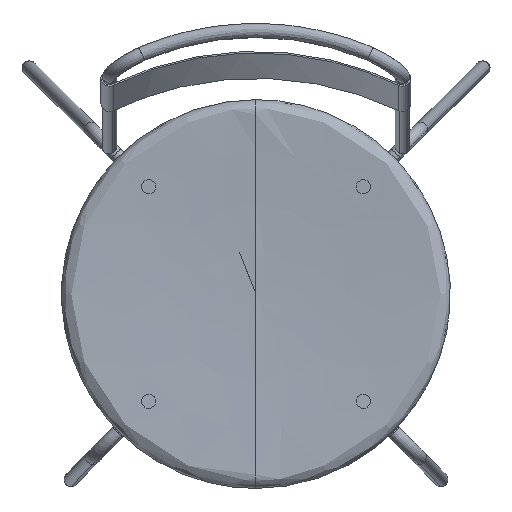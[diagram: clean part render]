
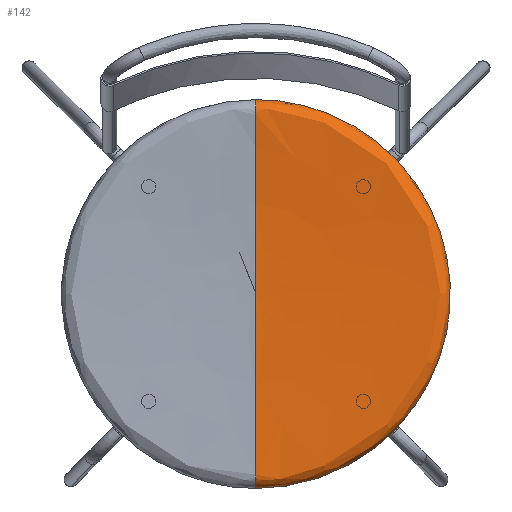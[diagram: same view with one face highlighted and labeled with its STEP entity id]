
A CAD part, top view. The second image highlights one B-rep face of the part: STEP entity #142.
In plain terms, the highlighted free-form (B-spline) face has degree [2, 2] with [5, 7] control points.
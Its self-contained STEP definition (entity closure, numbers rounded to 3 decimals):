
#72=(
BOUNDED_SURFACE()
B_SPLINE_SURFACE(2,2,((#2290,#2291,#2292,#2293,#2294,#2295,#2296),(#2297,
#2298,#2299,#2300,#2301,#2302,#2303),(#2304,#2305,#2306,#2307,#2308,#2309,
#2310),(#2311,#2312,#2313,#2314,#2315,#2316,#2317),(#2318,#2319,#2320,#2321,
#2322,#2323,#2324)),.UNSPECIFIED.,.F.,.F.,.F.)
B_SPLINE_SURFACE_WITH_KNOTS((3,2,3),(3,2,2,3),(0.,383.914,767.827),
(1.1,12.096,23.092,200.175),
 .UNSPECIFIED.)
GEOMETRIC_REPRESENTATION_ITEM()
RATIONAL_B_SPLINE_SURFACE(((1.,0.924,1.,0.924,1.,
0.999,1.),(0.707,0.653,0.707,
0.653,0.707,0.707,0.707),
(1.,0.924,1.,0.924,1.,0.999,1.),(0.707,
0.653,0.707,0.653,0.707,
0.707,0.707),(1.,0.924,1.,0.924,
1.,0.999,1.)))
REPRESENTATION_ITEM('')
SURFACE()
);
#142=ADVANCED_FACE('',(#246),#72,.T.);
#246=FACE_OUTER_BOUND('',#350,.T.);
#350=EDGE_LOOP('',(#524,#525,#526));
#524=ORIENTED_EDGE('',*,*,#916,.T.);
#525=ORIENTED_EDGE('',*,*,#915,.F.);
#526=ORIENTED_EDGE('',*,*,#914,.F.);
#914=EDGE_CURVE('',#1464,#1465,#1272,.T.);
#915=EDGE_CURVE('',#1465,#1463,#1273,.T.);
#916=EDGE_CURVE('',#1464,#1463,#1274,.T.);
#1272=(
BOUNDED_CURVE()
B_SPLINE_CURVE(2,(#2426,#2427,#2428,#2429,#2430,#2431,#2432),
 .UNSPECIFIED.,.F.,.F.)
B_SPLINE_CURVE_WITH_KNOTS((3,2,2,3),(1.1,12.623,
24.147,200.175),.UNSPECIFIED.)
CURVE()
GEOMETRIC_REPRESENTATION_ITEM()
RATIONAL_B_SPLINE_CURVE((1.,0.924,1.,0.924,1.,0.999,
1.))
REPRESENTATION_ITEM('')
);
#1273=(
BOUNDED_CURVE()
B_SPLINE_CURVE(2,(#2433,#2434,#2435,#2436,#2437,#2438,#2439),
 .UNSPECIFIED.,.F.,.F.)
B_SPLINE_CURVE_WITH_KNOTS((3,2,2,3),(-200.175,-24.147,
-12.623,-1.1),.UNSPECIFIED.)
CURVE()
GEOMETRIC_REPRESENTATION_ITEM()
RATIONAL_B_SPLINE_CURVE((1.,0.999,1.,0.924,1.,0.924,
1.))
REPRESENTATION_ITEM('')
);
#1274=(
BOUNDED_CURVE()
B_SPLINE_CURVE(2,(#2440,#2441,#2442,#2443,#2444),.UNSPECIFIED.,.F.,.F.)
B_SPLINE_CURVE_WITH_KNOTS((3,2,3),(0.,383.914,767.827),
 .UNSPECIFIED.)
CURVE()
GEOMETRIC_REPRESENTATION_ITEM()
RATIONAL_B_SPLINE_CURVE((1.,0.707,1.,0.707,1.))
REPRESENTATION_ITEM('')
);
#1463=VERTEX_POINT('',#2415);
#1464=VERTEX_POINT('',#2416);
#1465=VERTEX_POINT('',#2417);
#2290=CARTESIAN_POINT('',(0.,-229.238,460.396));
#2291=CARTESIAN_POINT('',(0.,-228.794,466.179));
#2292=CARTESIAN_POINT('',(-0.001,-224.392,469.953));
#2293=CARTESIAN_POINT('',(-0.002,-219.989,473.728));
#2294=CARTESIAN_POINT('',(-0.003,-214.207,473.284));
#2295=CARTESIAN_POINT('',(-0.021,-125.88,466.503));
#2296=CARTESIAN_POINT('',(-0.038,-37.293,466.679));
#2297=CARTESIAN_POINT('',(191.957,-229.199,460.396));
#2298=CARTESIAN_POINT('',(191.502,-228.756,466.179));
#2299=CARTESIAN_POINT('',(187.091,-224.354,469.953));
#2300=CARTESIAN_POINT('',(182.68,-219.953,473.728));
#2301=CARTESIAN_POINT('',(176.898,-214.172,473.284));
#2302=CARTESIAN_POINT('',(88.566,-125.862,466.503));
#2303=CARTESIAN_POINT('',(-0.038,-37.293,466.679));
#2304=CARTESIAN_POINT('',(191.918,-37.243,460.778));
#2305=CARTESIAN_POINT('',(191.463,-37.254,466.559));
#2306=CARTESIAN_POINT('',(187.054,-37.263,470.325));
#2307=CARTESIAN_POINT('',(182.644,-37.271,474.092));
#2308=CARTESIAN_POINT('',(176.862,-37.271,473.636));
#2309=CARTESIAN_POINT('',(88.549,-37.275,466.679));
#2310=CARTESIAN_POINT('',(-0.038,-37.293,466.679));
#2311=CARTESIAN_POINT('',(191.88,154.714,461.16));
#2312=CARTESIAN_POINT('',(191.425,154.247,466.94));
#2313=CARTESIAN_POINT('',(187.016,149.829,470.697));
#2314=CARTESIAN_POINT('',(182.607,145.41,474.455));
#2315=CARTESIAN_POINT('',(176.827,139.629,473.988));
#2316=CARTESIAN_POINT('',(88.531,51.312,466.856));
#2317=CARTESIAN_POINT('',(-0.038,-37.293,466.679));
#2318=CARTESIAN_POINT('',(-0.077,154.675,461.16));
#2319=CARTESIAN_POINT('',(-0.077,154.209,466.94));
#2320=CARTESIAN_POINT('',(-0.076,149.791,470.697));
#2321=CARTESIAN_POINT('',(-0.075,145.374,474.455));
#2322=CARTESIAN_POINT('',(-0.074,139.593,473.988));
#2323=CARTESIAN_POINT('',(-0.056,51.294,466.856));
#2324=CARTESIAN_POINT('',(-0.038,-37.293,466.679));
#2415=CARTESIAN_POINT('',(-0.077,154.675,461.16));
#2416=CARTESIAN_POINT('',(0.,-229.238,460.396));
#2417=CARTESIAN_POINT('',(-0.038,-37.293,466.679));
#2426=CARTESIAN_POINT('',(0.,-229.238,460.396));
#2427=CARTESIAN_POINT('',(0.,-228.794,466.179));
#2428=CARTESIAN_POINT('',(-0.001,-224.392,469.953));
#2429=CARTESIAN_POINT('',(-0.002,-219.989,473.728));
#2430=CARTESIAN_POINT('',(-0.003,-214.207,473.284));
#2431=CARTESIAN_POINT('',(-0.021,-125.88,466.503));
#2432=CARTESIAN_POINT('',(-0.038,-37.293,466.679));
#2433=CARTESIAN_POINT('',(-0.038,-37.293,466.679));
#2434=CARTESIAN_POINT('',(-0.056,51.294,466.856));
#2435=CARTESIAN_POINT('',(-0.074,139.593,473.988));
#2436=CARTESIAN_POINT('',(-0.075,145.374,474.455));
#2437=CARTESIAN_POINT('',(-0.076,149.791,470.697));
#2438=CARTESIAN_POINT('',(-0.077,154.209,466.94));
#2439=CARTESIAN_POINT('',(-0.077,154.675,461.16));
#2440=CARTESIAN_POINT('',(0.,-229.238,460.396));
#2441=CARTESIAN_POINT('',(191.957,-229.199,460.396));
#2442=CARTESIAN_POINT('',(191.918,-37.243,460.778));
#2443=CARTESIAN_POINT('',(191.88,154.714,461.16));
#2444=CARTESIAN_POINT('',(-0.077,154.675,461.16));
